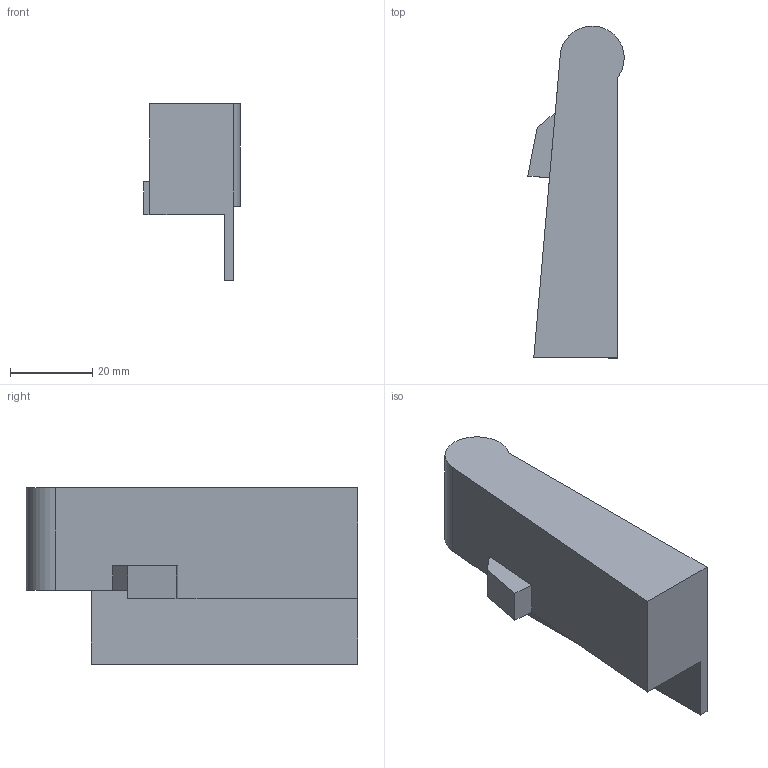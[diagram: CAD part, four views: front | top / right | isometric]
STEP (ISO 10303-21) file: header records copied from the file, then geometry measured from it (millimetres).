
FILE_DESCRIPTION (( 'STEP AP214' ), '1' );
FILE_NAME ('_Duowing Rutschsicherung re.step', '2010-07-14T13:30:07', ( 'grass' ), ( '' ), 'SwSTEP 2.0', 'SolidWorks 2010', '' );
FILE_SCHEMA (( 'AUTOMOTIVE_DESIGN' ));
Length unit declared in the file: millimetre
Products named in the file (1): _Duowing Rutschsicherung re
Bounding box: 23.46 x 80.8 x 43 mm (x, y, z)
Volume: 38864.6 mm3; surface area: 10184.9 mm2
Topology: 1 solids, 1 shells, 16 faces, 41 edges, 27 vertices
Faces by surface type: plane 15, cylinder 1
Entity records: 513 total; most frequent: CARTESIAN_POINT 85, ORIENTED_EDGE 82, DIRECTION 77, EDGE_CURVE 41, VECTOR 39, LINE 39, VERTEX_POINT 27, AXIS2_PLACEMENT_3D 19
